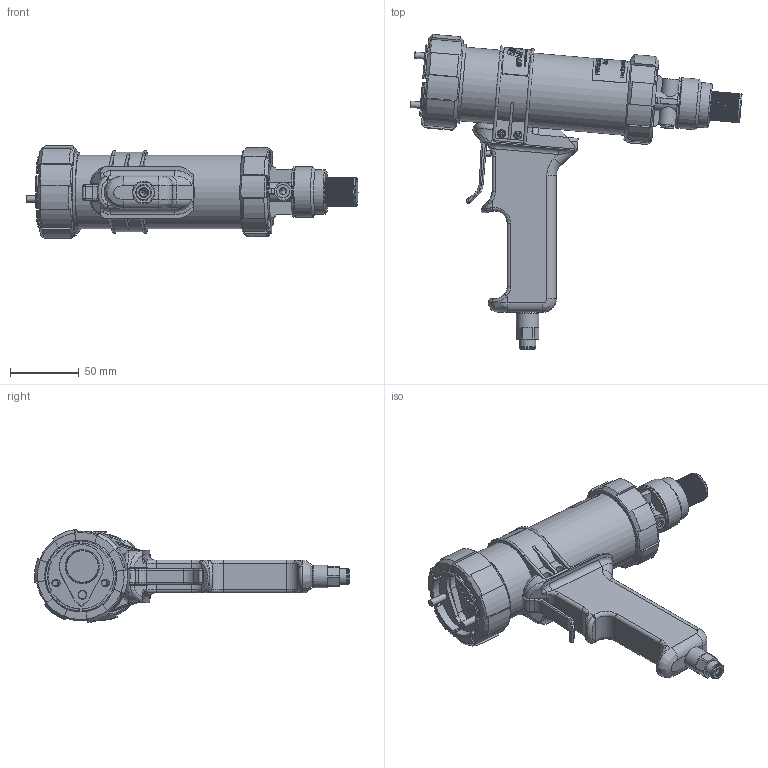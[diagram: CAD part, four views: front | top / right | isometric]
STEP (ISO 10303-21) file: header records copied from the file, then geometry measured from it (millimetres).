
FILE_DESCRIPTION((''),'2;1');
FILE_NAME('C:\9 Standard Equipment\Website Files\1493310 50ml 10 to 1 S Pneumatic Dispenser.stp','2011-06-23T08:43:59',('patch'),(''),'Autodesk Inventor 2012','Autodesk Inventor 2012','');
FILE_SCHEMA(('AUTOMOTIVE_DESIGN { 1 0 10303 214 1 1 1 1 }'));
Length unit declared in the file: inch
Products named in the file (17): 1493310 50ml 10 to 1 S Pneumatic Dispenser; 1493310 Handle Assy 4B1200; 1493310 Barrel Mtg Strap 2M1018 With Label; 1493310 Barrel 2M1018 With Label; 1493310 Regulator Assy 7A1503 Partial; 1493310 Back Cap 7C1001; 1493310 Trigger; 1493310 Phillips Pan Head Screw M3 X 30; 1493310 Front Cap Insert 3B5301; 1493310 Front Cap 3C1440; 1493310 Barrel Thread Sleeve 3R1021; 1493310 Front Bulkhead 3B5300; 1493310 Plunger 3P1122; 1493310 Metal Plunger 3R1941; 1493310 Fulcrum Pin 3F3027; 1493310 Regular Hex Nut M3 x 0.5; 1493310 Fitting 6mm Tube 2C1469
Assembly tree (19 placements, depth 2):
  1493310 50ml 10 to 1 S Pneumatic Dispenser
    1493310 Handle Assy 4B1200
    1493310 Barrel Mtg Strap 2M1018 With Label
    1493310 Barrel 2M1018 With Label
    1493310 Regulator Assy 7A1503 Partial
    1493310 Back Cap 7C1001
    1493310 Trigger
    1493310 Phillips Pan Head Screw M3 X 30  x2
    1493310 Front Cap Insert 3B5301
    1493310 Front Cap 3C1440
    1493310 Barrel Thread Sleeve 3R1021
    1493310 Front Bulkhead 3B5300
    1493310 Plunger 3P1122
    1493310 Metal Plunger 3R1941
    1493310 Fulcrum Pin 3F3027  x2
    1493310 Regular Hex Nut M3 x 0.5  x2
    1493310 Fitting 6mm Tube 2C1469
Bounding box: 242.24 x 230.05 x 67.78 mm (x, y, z)
Volume: 310784.8 mm3; surface area: 153408.2 mm2
Topology: 19 solids, 19 shells, 3762 faces, 10528 edges, 7048 vertices
Faces by surface type: plane 1599, bspline 1077, cylinder 691, cone 362, torus 31, sphere 2
Full cylindrical faces by diameter (mm): 2.489 x1, 2.594 x126, 3 x126, 3.15 x2, 3.48 x4, 3.988 x1, 4.648 x2, 4.66 x2, 5.004 x3, 5.156 x1, 5.893 x4, 5.994 x1, 6.096 x1, 6.299 x1, 6.3 x1, 7.01 x1, 9.5 x1, 11.532 x2, 11.811 x1, 16.459 x1, 21.031 x1, 24.003 x1, 25 x1, 30.48 x1, 32.461 x1, 36.83 x1, 36.982 x1, 38.151 x1, 44.272 x1, 50.8 x1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
Entity records: 267429 total; most frequent: CARTESIAN_POINT 186772, ORIENTED_EDGE 18240, DIRECTION 12636, EDGE_CURVE 9120, VERTEX_POINT 6291, VECTOR 4214, LINE 4214, AXIS2_PLACEMENT_3D 4211
